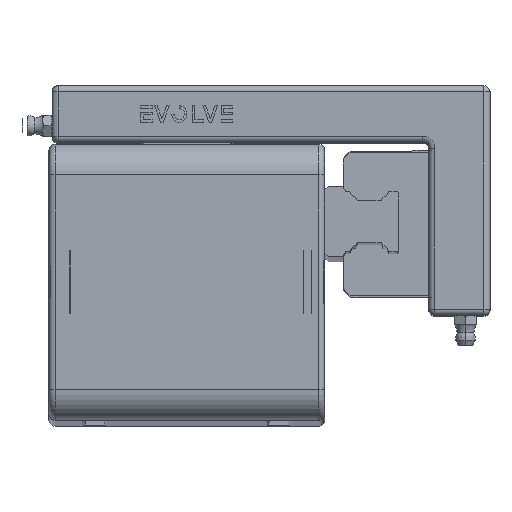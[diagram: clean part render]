
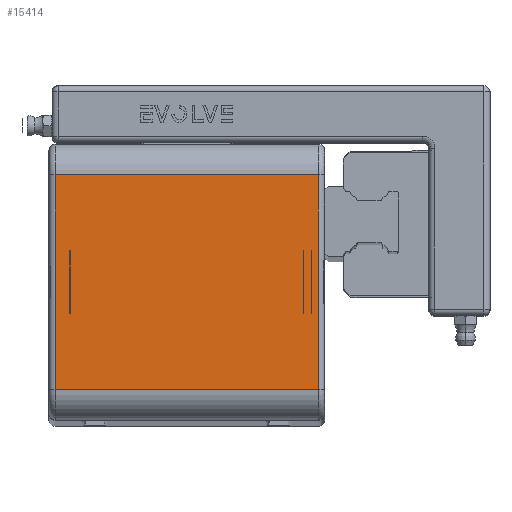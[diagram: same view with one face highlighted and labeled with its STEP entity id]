
A CAD part, top view. The second image highlights one B-rep face of the part: STEP entity #15414.
In plain terms, the highlighted planar face has unit normal (0, 0, 1).
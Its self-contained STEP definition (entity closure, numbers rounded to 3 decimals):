
#993=PLANE('',#16937);
#1767=FACE_OUTER_BOUND('',#2726,.T.);
#2726=EDGE_LOOP('',(#12337,#12338,#12339,#12340));
#3785=LINE('',#25010,#5124);
#3795=LINE('',#25061,#5134);
#3840=LINE('',#25263,#5179);
#3841=LINE('',#25265,#5180);
#5124=VECTOR('',#19534,10.);
#5134=VECTOR('',#19588,10.);
#5179=VECTOR('',#19827,10.);
#5180=VECTOR('',#19830,10.);
#7327=VERTEX_POINT('',#25002);
#7329=VERTEX_POINT('',#25008);
#7346=VERTEX_POINT('',#25053);
#7348=VERTEX_POINT('',#25059);
#9052=EDGE_CURVE('',#7329,#7327,#3785,.T.);
#9077=EDGE_CURVE('',#7348,#7346,#3795,.T.);
#9174=EDGE_CURVE('',#7327,#7348,#3840,.T.);
#9175=EDGE_CURVE('',#7346,#7329,#3841,.T.);
#12337=ORIENTED_EDGE('',*,*,#9052,.F.);
#12338=ORIENTED_EDGE('',*,*,#9175,.F.);
#12339=ORIENTED_EDGE('',*,*,#9077,.F.);
#12340=ORIENTED_EDGE('',*,*,#9174,.F.);
#15414=ADVANCED_FACE('',(#1767),#993,.T.);
#16937=AXIS2_PLACEMENT_3D('',#25264,#19828,#19829);
#19534=DIRECTION('',(0.,-1.,0.));
#19588=DIRECTION('',(0.,1.,0.));
#19827=DIRECTION('',(-1.,0.,0.));
#19828=DIRECTION('center_axis',(0.,0.,1.));
#19829=DIRECTION('ref_axis',(1.,0.,0.));
#19830=DIRECTION('',(1.,0.,0.));
#25002=CARTESIAN_POINT('',(43.,-35.,95.));
#25008=CARTESIAN_POINT('',(43.,35.,95.));
#25010=CARTESIAN_POINT('',(43.,-22.5,95.));
#25053=CARTESIAN_POINT('',(-43.,35.,95.));
#25059=CARTESIAN_POINT('',(-43.,-35.,95.));
#25061=CARTESIAN_POINT('',(-43.,22.5,95.));
#25263=CARTESIAN_POINT('',(-22.5,-35.,95.));
#25264=CARTESIAN_POINT('Origin',(0.,0.,
95.));
#25265=CARTESIAN_POINT('',(22.5,35.,95.));
